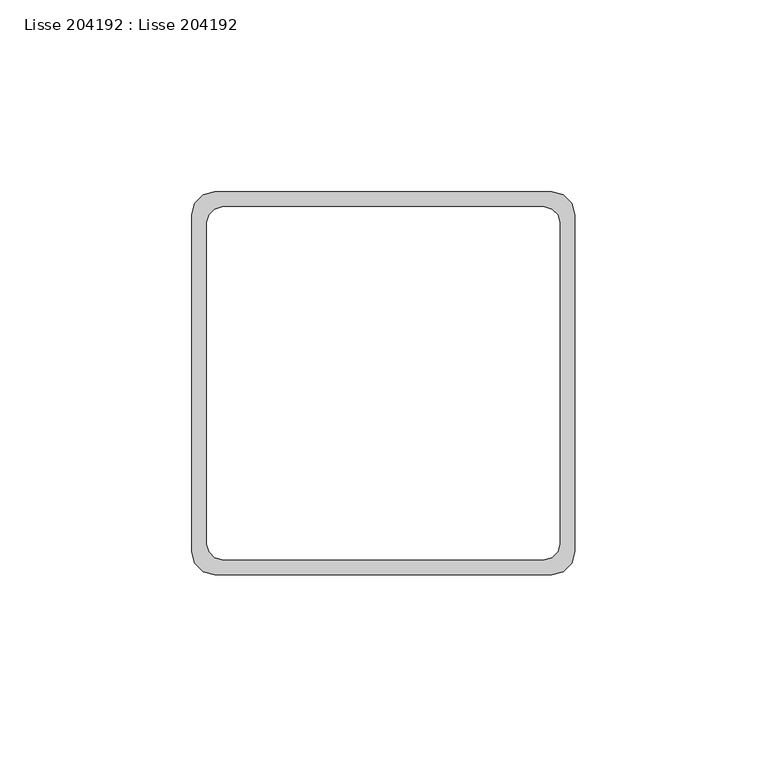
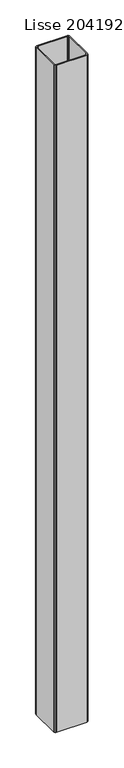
"""IFC4 building model written with IfcOpenShell, lengths in millimetres: beam geometry, Lisse 204192 : Lisse 204192."""

from ifc_helpers import new_model, si_unit, frame, origin, place, context, project, spatial, polyline, outline, extrude, source, transform, mapped, element, save


def lisse_204192_lisse_204192_d049e345(model_context):
    return source(origin(), model_context, "Body", "SweptSolid", [
        extrude(outline(polyline([(-80.8038477, -36597.0), (-83.0000001, -36599.1961524), (-86.0000001, -36600.0), (-174.0000001, -36600.0), (-177.0000001, -36599.1961524), (-179.1961526, -36597.0), (-180.0000001, -36594.0), (-180.0000001, -36506.0), (-179.1961526, -36503.0), (-177.0000001, -36500.8038476), (-174.0000001, -36500.0), (-86.0000001, -36500.0), (-83.0000001, -36500.8038476), (-80.8038477, -36503.0), (-80.0000001, -36506.0), (-80.0000001, -36594.0), (-80.8038477, -36597.0)]), holes=[polyline([(-84.5358985, -36506.0), (-86.0000001, -36504.5358984), (-88.0000001, -36504.0), (-172.0000001, -36504.0), (-174.0000001, -36504.5358984), (-175.4641017, -36506.0), (-176.0000001, -36508.0), (-176.0000001, -36592.0), (-175.4641017, -36594.0), (-174.0000001, -36595.4641016), (-172.0000001, -36596.0), (-88.0000001, -36596.0), (-86.0000001, -36595.4641016), (-84.5358985, -36594.0), (-84.0000001, -36592.0), (-84.0000001, -36508.0), (-84.5358985, -36506.0)])]), frame((0.0, 0.0, 2847.0), z_axis=(0.0, 0.0, 1.0), x_axis=(1.0, 0.0, 0.0)), (0.0, 0.0, 1.0), 2053.0),
    ])


if __name__ == "__main__":
    model = new_model("IFC4")
    model_context = context("Model", 3, world=origin())
    ifc_project = project(units=[si_unit("LENGTHUNIT", "METRE", prefix="MILLI")], contexts=[model_context])
    site = spatial("IfcSite", under=ifc_project)
    building = spatial("IfcBuilding", under=site)
    placement = place(None, origin())
    lisse_204192_lisse_204192_shape = lisse_204192_lisse_204192_d049e345(model_context)
    element("IfcBeam", 1, ObjectType="Lisse 204192 : Lisse 204192", at=placement, inside=building, context=model_context, shape_type="MappedRepresentation", body=[
        mapped(lisse_204192_lisse_204192_shape, transform((0.0, 0.0, 0.0), x_axis=(1.0, 0.0, 0.0), y_axis=(0.0, 1.0, 0.0), z_axis=(0.0, 0.0, 1.0))),
    ])
    save(model, "model.ifc")
